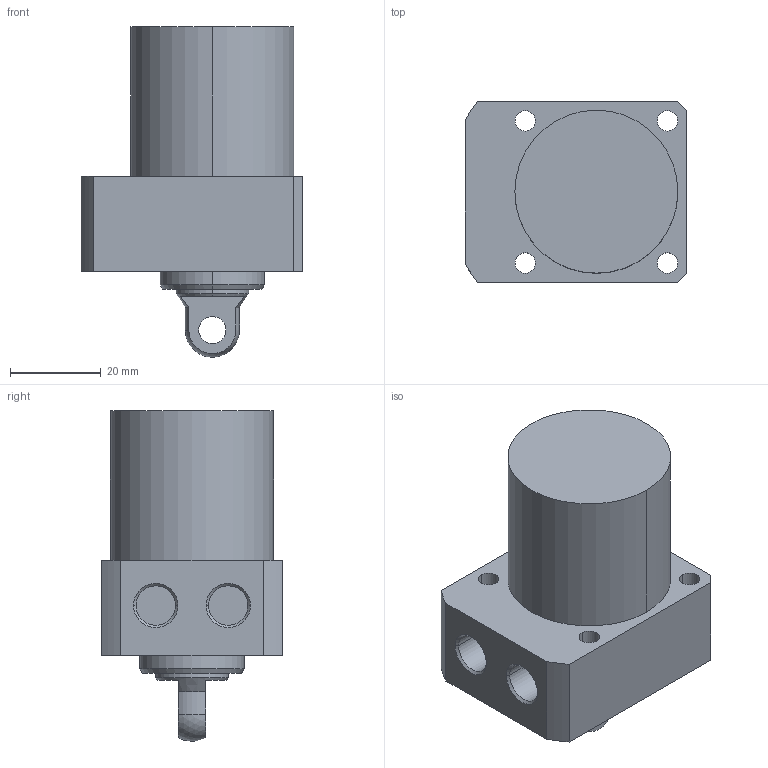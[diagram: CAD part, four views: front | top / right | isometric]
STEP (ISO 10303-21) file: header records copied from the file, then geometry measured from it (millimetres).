
FILE_DESCRIPTION((' '),'2;1');
FILE_NAME( 'TLLR-036CP-025.STEP.stp', '2025-10-24T16:35:48', (' '), ('--- Datakit www.datakit.com---'), ' Datakit CrossCadWare V2024.1 Dec 21 2023', 'Mastercam 2025', ' ');
FILE_SCHEMA(('AUTOMOTIVE_DESIGN { 1 0 10303 214 1 1 1 1 }'));
Length unit declared in the file: millimetre
Products named in the file (1): TLLR-036CP-025
Bounding box: 49 x 40 x 72.97 mm (x, y, z)
Volume: 74135.1 mm3; surface area: 13756.1 mm2
Topology: 1 solids, 1 shells, 55 faces, 157 edges, 111 vertices
Faces by surface type: cylinder 28, plane 18, cone 8, sphere 1
Entity records: 1924 total; most frequent: DIRECTION 360, CARTESIAN_POINT 336, ORIENTED_EDGE 314, EDGE_CURVE 157, AXIS2_PLACEMENT_3D 151, VERTEX_POINT 111, CIRCLE 95, EDGE_LOOP 72
